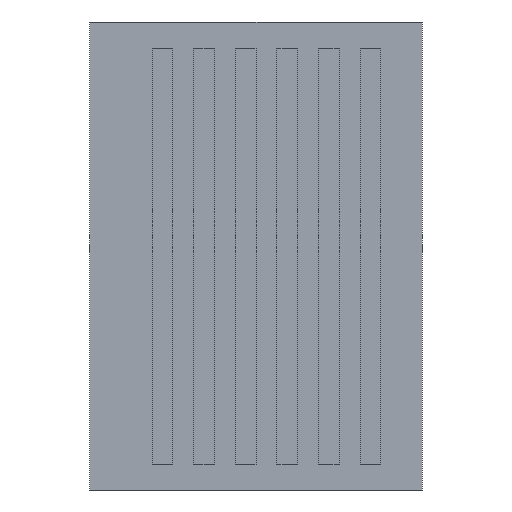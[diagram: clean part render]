
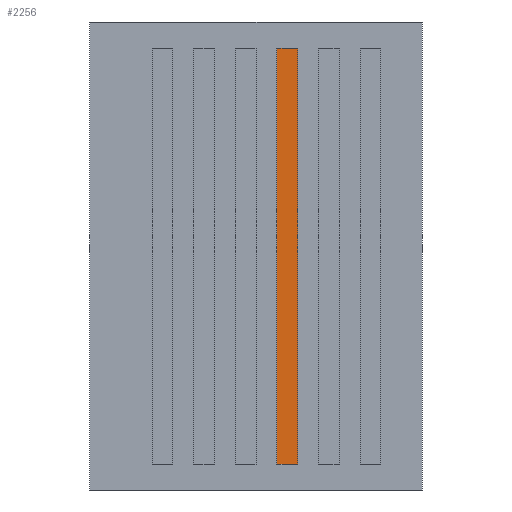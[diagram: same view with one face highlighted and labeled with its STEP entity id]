
A CAD part, front view. The second image highlights one B-rep face of the part: STEP entity #2256.
In plain terms, the highlighted planar face has unit normal (0, -1, 0).
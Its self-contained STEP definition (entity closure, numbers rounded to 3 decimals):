
#708 = PLANE('',#709);
#709 = AXIS2_PLACEMENT_3D('',#710,#711,#712);
#710 = CARTESIAN_POINT('',(-24.5,-136.31,15.));
#711 = DIRECTION('',(-1.,0.,0.));
#712 = DIRECTION('',(0.,0.,1.));
#736 = PLANE('',#737);
#737 = AXIS2_PLACEMENT_3D('',#738,#739,#740);
#738 = CARTESIAN_POINT('',(-24.5,-136.31,95.));
#739 = DIRECTION('',(0.,0.,1.));
#740 = DIRECTION('',(-1.,0.,0.));
#764 = PLANE('',#765);
#765 = AXIS2_PLACEMENT_3D('',#766,#767,#768);
#766 = CARTESIAN_POINT('',(-28.5,-136.31,15.));
#767 = DIRECTION('',(-1.,0.,0.));
#768 = DIRECTION('',(0.,0.,1.));
#790 = PLANE('',#791);
#791 = AXIS2_PLACEMENT_3D('',#792,#793,#794);
#792 = CARTESIAN_POINT('',(-24.5,-136.31,15.));
#793 = DIRECTION('',(0.,0.,1.));
#794 = DIRECTION('',(-1.,0.,0.));
#1636 = EDGE_CURVE('',#1637,#1639,#1641,.T.);
#1637 = VERTEX_POINT('',#1638);
#1638 = CARTESIAN_POINT('',(-24.5,-136.31,15.));
#1639 = VERTEX_POINT('',#1640);
#1640 = CARTESIAN_POINT('',(-24.5,-136.31,95.));
#1641 = SURFACE_CURVE('',#1642,(#1646,#1653),.PCURVE_S1.);
#1642 = LINE('',#1643,#1644);
#1643 = CARTESIAN_POINT('',(-24.5,-136.31,15.));
#1644 = VECTOR('',#1645,1.);
#1645 = DIRECTION('',(0.,0.,1.));
#1646 = PCURVE('',#708,#1647);
#1647 = DEFINITIONAL_REPRESENTATION('',(#1648),#1652);
#1648 = LINE('',#1649,#1650);
#1649 = CARTESIAN_POINT('',(0.,0.));
#1650 = VECTOR('',#1651,1.);
#1651 = DIRECTION('',(1.,0.));
#1652 = ( GEOMETRIC_REPRESENTATION_CONTEXT(2) 
PARAMETRIC_REPRESENTATION_CONTEXT() REPRESENTATION_CONTEXT('2D SPACE',''
  ) );
#1653 = PCURVE('',#1654,#1659);
#1654 = PLANE('',#1655);
#1655 = AXIS2_PLACEMENT_3D('',#1656,#1657,#1658);
#1656 = CARTESIAN_POINT('',(-24.5,-136.31,15.));
#1657 = DIRECTION('',(0.,-1.,0.));
#1658 = DIRECTION('',(0.,0.,1.));
#1659 = DEFINITIONAL_REPRESENTATION('',(#1660),#1664);
#1660 = LINE('',#1661,#1662);
#1661 = CARTESIAN_POINT('',(0.,0.));
#1662 = VECTOR('',#1663,1.);
#1663 = DIRECTION('',(1.,0.));
#1664 = ( GEOMETRIC_REPRESENTATION_CONTEXT(2) 
PARAMETRIC_REPRESENTATION_CONTEXT() REPRESENTATION_CONTEXT('2D SPACE',''
  ) );
#1713 = EDGE_CURVE('',#1639,#1714,#1716,.T.);
#1714 = VERTEX_POINT('',#1715);
#1715 = CARTESIAN_POINT('',(-28.5,-136.31,95.));
#1716 = SURFACE_CURVE('',#1717,(#1721,#1728),.PCURVE_S1.);
#1717 = LINE('',#1718,#1719);
#1718 = CARTESIAN_POINT('',(-24.5,-136.31,95.));
#1719 = VECTOR('',#1720,1.);
#1720 = DIRECTION('',(-1.,0.,0.));
#1721 = PCURVE('',#736,#1722);
#1722 = DEFINITIONAL_REPRESENTATION('',(#1723),#1727);
#1723 = LINE('',#1724,#1725);
#1724 = CARTESIAN_POINT('',(0.,0.));
#1725 = VECTOR('',#1726,1.);
#1726 = DIRECTION('',(1.,0.));
#1727 = ( GEOMETRIC_REPRESENTATION_CONTEXT(2) 
PARAMETRIC_REPRESENTATION_CONTEXT() REPRESENTATION_CONTEXT('2D SPACE',''
  ) );
#1728 = PCURVE('',#1654,#1729);
#1729 = DEFINITIONAL_REPRESENTATION('',(#1730),#1734);
#1730 = LINE('',#1731,#1732);
#1731 = CARTESIAN_POINT('',(80.,0.));
#1732 = VECTOR('',#1733,1.);
#1733 = DIRECTION('',(0.,1.));
#1734 = ( GEOMETRIC_REPRESENTATION_CONTEXT(2) 
PARAMETRIC_REPRESENTATION_CONTEXT() REPRESENTATION_CONTEXT('2D SPACE',''
  ) );
#1762 = EDGE_CURVE('',#1637,#1763,#1765,.T.);
#1763 = VERTEX_POINT('',#1764);
#1764 = CARTESIAN_POINT('',(-28.5,-136.31,15.));
#1765 = SURFACE_CURVE('',#1766,(#1770,#1777),.PCURVE_S1.);
#1766 = LINE('',#1767,#1768);
#1767 = CARTESIAN_POINT('',(-24.5,-136.31,15.));
#1768 = VECTOR('',#1769,1.);
#1769 = DIRECTION('',(-1.,0.,0.));
#1770 = PCURVE('',#790,#1771);
#1771 = DEFINITIONAL_REPRESENTATION('',(#1772),#1776);
#1772 = LINE('',#1773,#1774);
#1773 = CARTESIAN_POINT('',(0.,0.));
#1774 = VECTOR('',#1775,1.);
#1775 = DIRECTION('',(1.,0.));
#1776 = ( GEOMETRIC_REPRESENTATION_CONTEXT(2) 
PARAMETRIC_REPRESENTATION_CONTEXT() REPRESENTATION_CONTEXT('2D SPACE',''
  ) );
#1777 = PCURVE('',#1654,#1778);
#1778 = DEFINITIONAL_REPRESENTATION('',(#1779),#1783);
#1779 = LINE('',#1780,#1781);
#1780 = CARTESIAN_POINT('',(0.,0.));
#1781 = VECTOR('',#1782,1.);
#1782 = DIRECTION('',(0.,1.));
#1783 = ( GEOMETRIC_REPRESENTATION_CONTEXT(2) 
PARAMETRIC_REPRESENTATION_CONTEXT() REPRESENTATION_CONTEXT('2D SPACE',''
  ) );
#1810 = EDGE_CURVE('',#1763,#1714,#1811,.T.);
#1811 = SURFACE_CURVE('',#1812,(#1816,#1823),.PCURVE_S1.);
#1812 = LINE('',#1813,#1814);
#1813 = CARTESIAN_POINT('',(-28.5,-136.31,15.));
#1814 = VECTOR('',#1815,1.);
#1815 = DIRECTION('',(0.,0.,1.));
#1816 = PCURVE('',#764,#1817);
#1817 = DEFINITIONAL_REPRESENTATION('',(#1818),#1822);
#1818 = LINE('',#1819,#1820);
#1819 = CARTESIAN_POINT('',(0.,0.));
#1820 = VECTOR('',#1821,1.);
#1821 = DIRECTION('',(1.,0.));
#1822 = ( GEOMETRIC_REPRESENTATION_CONTEXT(2) 
PARAMETRIC_REPRESENTATION_CONTEXT() REPRESENTATION_CONTEXT('2D SPACE',''
  ) );
#1823 = PCURVE('',#1654,#1824);
#1824 = DEFINITIONAL_REPRESENTATION('',(#1825),#1829);
#1825 = LINE('',#1826,#1827);
#1826 = CARTESIAN_POINT('',(0.,4.));
#1827 = VECTOR('',#1828,1.);
#1828 = DIRECTION('',(1.,0.));
#1829 = ( GEOMETRIC_REPRESENTATION_CONTEXT(2) 
PARAMETRIC_REPRESENTATION_CONTEXT() REPRESENTATION_CONTEXT('2D SPACE',''
  ) );
#2256 = ADVANCED_FACE('',(#2257),#1654,.T.);
#2257 = FACE_BOUND('',#2258,.T.);
#2258 = EDGE_LOOP('',(#2259,#2260,#2261,#2262));
#2259 = ORIENTED_EDGE('',*,*,#1762,.F.);
#2260 = ORIENTED_EDGE('',*,*,#1636,.T.);
#2261 = ORIENTED_EDGE('',*,*,#1713,.T.);
#2262 = ORIENTED_EDGE('',*,*,#1810,.F.);
